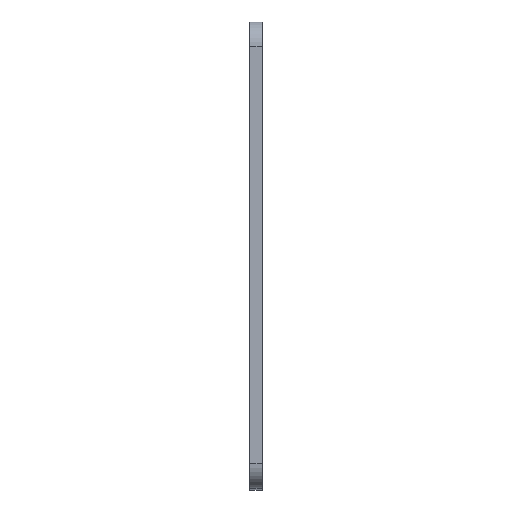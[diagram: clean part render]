
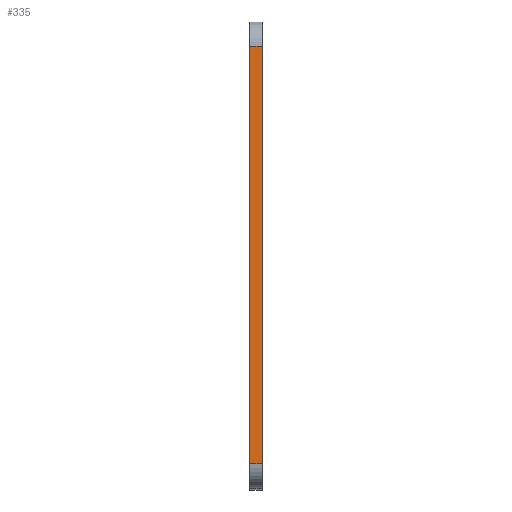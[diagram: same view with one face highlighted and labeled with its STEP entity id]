
A CAD part, left-side view. The second image highlights one B-rep face of the part: STEP entity #335.
In plain terms, the highlighted planar face has unit normal (-1, 0, 0.003).
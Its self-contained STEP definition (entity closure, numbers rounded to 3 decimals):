
#3 = EDGE_CURVE ( 'NONE', #160, #757, #347, .T. ) ;
#14 = EDGE_CURVE ( 'NONE', #232, #757, #471, .T. ) ;
#22 = LINE ( 'NONE', #368, #97 ) ;
#40 = DIRECTION ( 'NONE',  ( 0.003, 0., 1. ) ) ;
#79 = DIRECTION ( 'NONE',  ( 0., -1., 0. ) ) ;
#82 = ORIENTED_EDGE ( 'NONE', *, *, #312, .F. ) ;
#96 = CARTESIAN_POINT ( 'NONE',  ( -126.846, 5., -25.469 ) ) ;
#97 = VECTOR ( 'NONE', #79, 1000. ) ;
#106 = VERTEX_POINT ( 'NONE', #177 ) ;
#114 = ORIENTED_EDGE ( 'NONE', *, *, #633, .T. ) ;
#160 = VERTEX_POINT ( 'NONE', #319 ) ;
#177 = CARTESIAN_POINT ( 'NONE',  ( -126.846, 5., -25.469 ) ) ;
#197 = VECTOR ( 'NONE', #40, 1000. ) ;
#224 = CARTESIAN_POINT ( 'NONE',  ( -126.421, 0., 144.531 ) ) ;
#232 = VERTEX_POINT ( 'NONE', #733 ) ;
#244 = DIRECTION ( 'NONE',  ( 0., -1., 0. ) ) ;
#278 = FACE_OUTER_BOUND ( 'NONE', #517, .T. ) ;
#312 = EDGE_CURVE ( 'NONE', #106, #160, #759, .T. ) ;
#313 = DIRECTION ( 'NONE',  ( 0.003, 0., 1. ) ) ;
#319 = CARTESIAN_POINT ( 'NONE',  ( -126.421, 5., 144.531 ) ) ;
#335 = ADVANCED_FACE ( 'NONE', ( #278 ), #751, .F. ) ;
#347 = LINE ( 'NONE', #451, #779 ) ;
#349 = DIRECTION ( 'NONE',  ( 1., 0., -0.003 ) ) ;
#356 = ORIENTED_EDGE ( 'NONE', *, *, #3, .F. ) ;
#368 = CARTESIAN_POINT ( 'NONE',  ( -126.846, 5., -25.469 ) ) ;
#422 = AXIS2_PLACEMENT_3D ( 'NONE', #503, #349, #696 ) ;
#451 = CARTESIAN_POINT ( 'NONE',  ( -126.421, 5., 144.531 ) ) ;
#471 = LINE ( 'NONE', #477, #726 ) ;
#477 = CARTESIAN_POINT ( 'NONE',  ( -126.846, 0., -25.469 ) ) ;
#503 = CARTESIAN_POINT ( 'NONE',  ( -126.846, 5., -25.469 ) ) ;
#517 = EDGE_LOOP ( 'NONE', ( #559, #356, #82, #114 ) ) ;
#559 = ORIENTED_EDGE ( 'NONE', *, *, #14, .T. ) ;
#633 = EDGE_CURVE ( 'NONE', #106, #232, #22, .T. ) ;
#696 = DIRECTION ( 'NONE',  ( -0.003, 0., -1. ) ) ;
#726 = VECTOR ( 'NONE', #313, 1000. ) ;
#733 = CARTESIAN_POINT ( 'NONE',  ( -126.846, 0., -25.469 ) ) ;
#751 = PLANE ( 'NONE',  #422 ) ;
#757 = VERTEX_POINT ( 'NONE', #224 ) ;
#759 = LINE ( 'NONE', #96, #197 ) ;
#779 = VECTOR ( 'NONE', #244, 1000. ) ;
